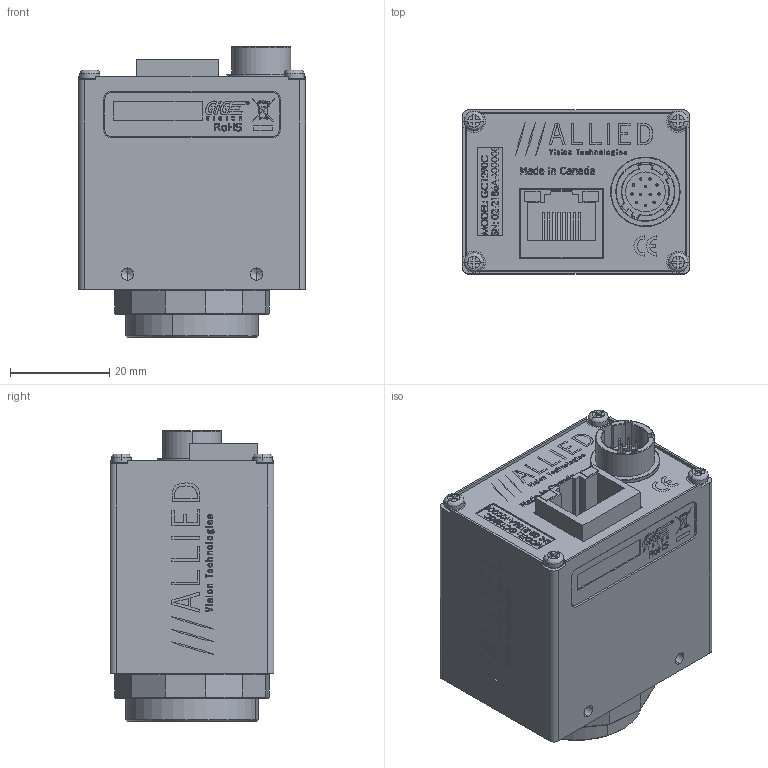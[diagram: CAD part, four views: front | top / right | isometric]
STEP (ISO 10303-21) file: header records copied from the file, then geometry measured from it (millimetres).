
FILE_DESCRIPTION (( 'STEP AP214' ), '1' );
FILE_NAME ('GC1290C.STEP', '2013-07-31T18:46:30', ( '' ), ( '' ), 'SwSTEP 2.0', 'SolidWorks 2013', '' );
FILE_SCHEMA (( 'AUTOMOTIVE_DESIGN' ));
Length unit declared in the file: millimetre
Products named in the file (23): 110042C GC-CCD FRONT_Finished with logo; 140013-washer spring lock M2; 140017-SCREW PAN M2x4 SS; 200074A-PCB ASSY GC1290  SENSOR COLOR; 220122-SONY ICX445AQA; SONY ICX445 BODY; SONY ICX445 WINDOW; 260034-HIROSE HR10A-10R-12PB; 140023-SCREW SKT CAP M2x10 SS; 100097A-IR FILTER ASSEMBLY 0.75 INCH; 740123A-GC MAC LABEL; 110054AB-IR FILTER SUPPORT; 110043A GC BACK PLATE; 440002-IR CUT FILTER 22MM DIA; 110043A GC BACK PLATE - WO HW; 110031A-B EC-CCD LOCKING RING; GC1290C; 110045B-EC-CCD DUST SHIELD GASKET; 740079A-GC1290C LABEL PRINT; 200047A-A GC INTERFACE PCB ASSY; 260033-AMPHENOL RJHS-3381; 110003AC-CV CMOUNT RING; 740032B-GC MAIN LABEL
Assembly tree (27 placements, depth 4):
  GC1290C
    100097A-IR FILTER ASSEMBLY 0.75 INCH
      440002-IR CUT FILTER 22MM DIA
      110054AB-IR FILTER SUPPORT
    140023-SCREW SKT CAP M2x10 SS  x2
    260034-HIROSE HR10A-10R-12PB
    200074A-PCB ASSY GC1290  SENSOR COLOR
      220122-SONY ICX445AQA
        SONY ICX445 WINDOW
        SONY ICX445 BODY
    140017-SCREW PAN M2x4 SS  x4
    140013-washer spring lock M2  x2
    110042C GC-CCD FRONT_Finished with logo
    740032B-GC MAIN LABEL
    110003AC-CV CMOUNT RING
    200047A-A GC INTERFACE PCB ASSY
      260033-AMPHENOL RJHS-3381
    740079A-GC1290C LABEL PRINT
    110045B-EC-CCD DUST SHIELD GASKET
    110031A-B EC-CCD LOCKING RING
    110043A GC BACK PLATE
      110043A GC BACK PLATE - WO HW
    740123A-GC MAC LABEL
Bounding box: 45.72 x 33.02 x 58.5 mm (x, y, z)
Volume: 22929.4 mm3; surface area: 33456.9 mm2
Topology: 22 solids, 22 shells, 3352 faces, 8782 edges, 5682 vertices
Faces by surface type: plane 1925, bspline 930, cylinder 291, cone 206
Entity records: 169463 total; most frequent: CARTESIAN_POINT 59030, ORIENTED_EDGE 16876, DIRECTION 12086, EDGE_CURVE 8438, LINE 5828, VECTOR 5828, VERTEX_POINT 5512, EDGE_LOOP 3580
